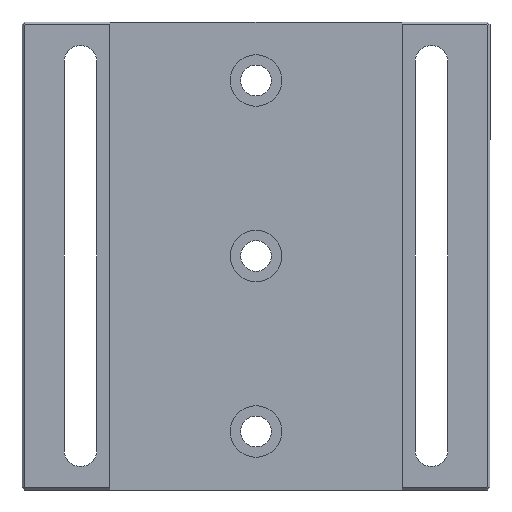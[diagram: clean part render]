
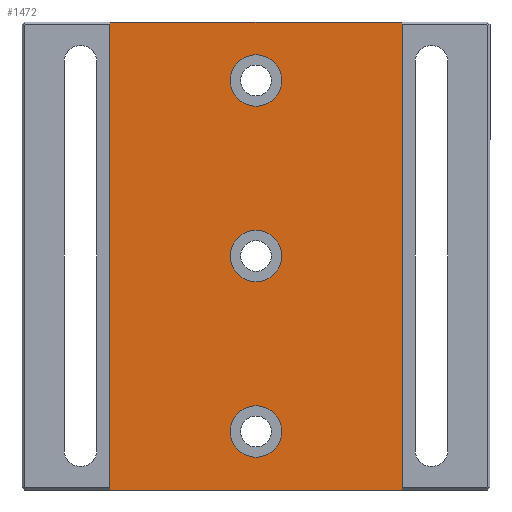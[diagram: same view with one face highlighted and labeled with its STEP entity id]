
A CAD part, front view. The second image highlights one B-rep face of the part: STEP entity #1472.
In plain terms, the highlighted planar face has unit normal (0, -1, 0).
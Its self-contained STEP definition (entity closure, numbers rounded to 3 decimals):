
#19 = CARTESIAN_POINT ( 'NONE',  ( 0., -3.75, -5.5 ) ) ;
#44 = ORIENTED_EDGE ( 'NONE', *, *, #165, .T. ) ;
#56 = CARTESIAN_POINT ( 'NONE',  ( 0., -3.75, 37.5 ) ) ;
#90 = CARTESIAN_POINT ( 'NONE',  ( -31.25, -3.75, 57.094 ) ) ;
#122 = VERTEX_POINT ( 'NONE', #1201 ) ;
#127 = ORIENTED_EDGE ( 'NONE', *, *, #1062, .T. ) ;
#153 = CARTESIAN_POINT ( 'NONE',  ( 0., -3.75, 0. ) ) ;
#163 = VECTOR ( 'NONE', #1253, 1000. ) ;
#165 = EDGE_CURVE ( 'NONE', #323, #266, #881, .T. ) ;
#168 = LINE ( 'NONE', #580, #1026 ) ;
#171 = ORIENTED_EDGE ( 'NONE', *, *, #1576, .T. ) ;
#185 = CIRCLE ( 'NONE', #1697, 5.5 ) ;
#195 = EDGE_LOOP ( 'NONE', ( #609, #1049, #1125, #694 ) ) ;
#203 = CIRCLE ( 'NONE', #1210, 5.5 ) ;
#235 = EDGE_CURVE ( 'NONE', #1533, #122, #1046, .T. ) ;
#265 = EDGE_CURVE ( 'NONE', #312, #402, #1706, .T. ) ;
#266 = VERTEX_POINT ( 'NONE', #1051 ) ;
#267 = CARTESIAN_POINT ( 'NONE',  ( 0., -3.75, 5.5 ) ) ;
#297 = CARTESIAN_POINT ( 'NONE',  ( 0., -3.75, -43. ) ) ;
#312 = VERTEX_POINT ( 'NONE', #267 ) ;
#323 = VERTEX_POINT ( 'NONE', #297 ) ;
#339 = CARTESIAN_POINT ( 'NONE',  ( 0., -3.75, 0. ) ) ;
#361 = CARTESIAN_POINT ( 'NONE',  ( 0., -3.75, -37.5 ) ) ;
#402 = VERTEX_POINT ( 'NONE', #19 ) ;
#415 = DIRECTION ( 'NONE',  ( 0., -1., 0. ) ) ;
#417 = CARTESIAN_POINT ( 'NONE',  ( 0., -3.75, -37.5 ) ) ;
#421 = EDGE_CURVE ( 'NONE', #600, #1311, #168, .T. ) ;
#454 = AXIS2_PLACEMENT_3D ( 'NONE', #56, #713, #853 ) ;
#466 = AXIS2_PLACEMENT_3D ( 'NONE', #651, #1349, #1735 ) ;
#503 = EDGE_LOOP ( 'NONE', ( #44, #1579 ) ) ;
#520 = LINE ( 'NONE', #90, #836 ) ;
#521 = VERTEX_POINT ( 'NONE', #1672 ) ;
#580 = CARTESIAN_POINT ( 'NONE',  ( 31.25, -3.75, 57.094 ) ) ;
#581 = EDGE_LOOP ( 'NONE', ( #171, #1455 ) ) ;
#600 = VERTEX_POINT ( 'NONE', #1573 ) ;
#609 = ORIENTED_EDGE ( 'NONE', *, *, #900, .T. ) ;
#625 = DIRECTION ( 'NONE',  ( 0., 1., 0. ) ) ;
#651 = CARTESIAN_POINT ( 'NONE',  ( 0., -3.75, 37.5 ) ) ;
#668 = CARTESIAN_POINT ( 'NONE',  ( 0., -3.75, 0. ) ) ;
#684 = PLANE ( 'NONE',  #1749 ) ;
#694 = ORIENTED_EDGE ( 'NONE', *, *, #765, .T. ) ;
#713 = DIRECTION ( 'NONE',  ( 0., 1., 0. ) ) ;
#756 = DIRECTION ( 'NONE',  ( 0., 0., -1. ) ) ;
#765 = EDGE_CURVE ( 'NONE', #521, #1552, #520, .T. ) ;
#780 = DIRECTION ( 'NONE',  ( 0., 0., -1. ) ) ;
#790 = AXIS2_PLACEMENT_3D ( 'NONE', #668, #1484, #780 ) ;
#834 = CARTESIAN_POINT ( 'NONE',  ( -31.25, -3.75, -50. ) ) ;
#836 = VECTOR ( 'NONE', #1324, 1000. ) ;
#853 = DIRECTION ( 'NONE',  ( 0., 0., -1. ) ) ;
#881 = CIRCLE ( 'NONE', #1133, 5.5 ) ;
#900 = EDGE_CURVE ( 'NONE', #1552, #600, #1139, .T. ) ;
#981 = FACE_BOUND ( 'NONE', #581, .T. ) ;
#1016 = ORIENTED_EDGE ( 'NONE', *, *, #265, .T. ) ;
#1026 = VECTOR ( 'NONE', #1412, 1000. ) ;
#1046 = CIRCLE ( 'NONE', #466, 5.5 ) ;
#1049 = ORIENTED_EDGE ( 'NONE', *, *, #421, .T. ) ;
#1051 = CARTESIAN_POINT ( 'NONE',  ( 0., -3.75, -32. ) ) ;
#1057 = CARTESIAN_POINT ( 'NONE',  ( 31.25, -3.75, 50. ) ) ;
#1062 = EDGE_CURVE ( 'NONE', #402, #312, #203, .T. ) ;
#1090 = VECTOR ( 'NONE', #1740, 1000. ) ;
#1111 = DIRECTION ( 'NONE',  ( 0., 0., -1. ) ) ;
#1113 = LINE ( 'NONE', #1376, #163 ) ;
#1125 = ORIENTED_EDGE ( 'NONE', *, *, #1733, .T. ) ;
#1133 = AXIS2_PLACEMENT_3D ( 'NONE', #417, #1660, #1251 ) ;
#1139 = LINE ( 'NONE', #1231, #1090 ) ;
#1201 = CARTESIAN_POINT ( 'NONE',  ( 0., -3.75, 32. ) ) ;
#1210 = AXIS2_PLACEMENT_3D ( 'NONE', #339, #625, #756 ) ;
#1231 = CARTESIAN_POINT ( 'NONE',  ( -50., -3.75, -50. ) ) ;
#1243 = EDGE_CURVE ( 'NONE', #266, #323, #185, .T. ) ;
#1251 = DIRECTION ( 'NONE',  ( 0., 0., -1. ) ) ;
#1253 = DIRECTION ( 'NONE',  ( -1., 0., 0. ) ) ;
#1270 = FACE_OUTER_BOUND ( 'NONE', #195, .T. ) ;
#1311 = VERTEX_POINT ( 'NONE', #1057 ) ;
#1317 = DIRECTION ( 'NONE',  ( 0., 1., 0. ) ) ;
#1324 = DIRECTION ( 'NONE',  ( 0., 0., -1. ) ) ;
#1349 = DIRECTION ( 'NONE',  ( 0., 1., 0. ) ) ;
#1376 = CARTESIAN_POINT ( 'NONE',  ( -50., -3.75, 50. ) ) ;
#1412 = DIRECTION ( 'NONE',  ( 0., 0., 1. ) ) ;
#1449 = DIRECTION ( 'NONE',  ( 0., 0., -1. ) ) ;
#1455 = ORIENTED_EDGE ( 'NONE', *, *, #235, .T. ) ;
#1472 = ADVANCED_FACE ( 'NONE', ( #1626, #1546, #981, #1270 ), #684, .T. ) ;
#1484 = DIRECTION ( 'NONE',  ( 0., 1., 0. ) ) ;
#1521 = CARTESIAN_POINT ( 'NONE',  ( 0., -3.75, 43. ) ) ;
#1533 = VERTEX_POINT ( 'NONE', #1521 ) ;
#1546 = FACE_BOUND ( 'NONE', #503, .T. ) ;
#1552 = VERTEX_POINT ( 'NONE', #834 ) ;
#1561 = EDGE_LOOP ( 'NONE', ( #127, #1016 ) ) ;
#1573 = CARTESIAN_POINT ( 'NONE',  ( 31.25, -3.75, -50. ) ) ;
#1576 = EDGE_CURVE ( 'NONE', #122, #1533, #1724, .T. ) ;
#1579 = ORIENTED_EDGE ( 'NONE', *, *, #1243, .T. ) ;
#1626 = FACE_BOUND ( 'NONE', #1561, .T. ) ;
#1660 = DIRECTION ( 'NONE',  ( 0., 1., 0. ) ) ;
#1672 = CARTESIAN_POINT ( 'NONE',  ( -31.25, -3.75, 50. ) ) ;
#1697 = AXIS2_PLACEMENT_3D ( 'NONE', #361, #1317, #1449 ) ;
#1706 = CIRCLE ( 'NONE', #790, 5.5 ) ;
#1724 = CIRCLE ( 'NONE', #454, 5.5 ) ;
#1733 = EDGE_CURVE ( 'NONE', #1311, #521, #1113, .T. ) ;
#1735 = DIRECTION ( 'NONE',  ( 0., 0., -1. ) ) ;
#1740 = DIRECTION ( 'NONE',  ( 1., 0., 0. ) ) ;
#1749 = AXIS2_PLACEMENT_3D ( 'NONE', #153, #415, #1111 ) ;
